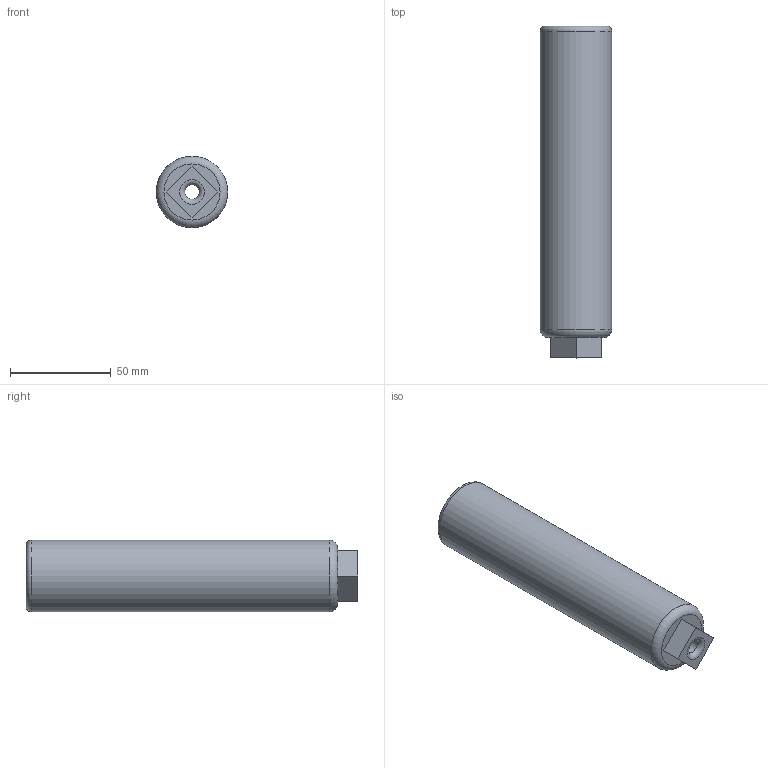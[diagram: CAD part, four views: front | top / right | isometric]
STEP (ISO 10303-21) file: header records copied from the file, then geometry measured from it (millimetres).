
FILE_DESCRIPTION(/* description */ (''),/* implementation_level */ '2;1');
FILE_NAME(/* name */ 'C:/Users/Owner/Desktop/liberator suppressed/STEP Files/22 Caliber versions/22 Cal Liberator Suppressor can 6.5 inch.step',/* time_stamp */ '2020-04-23T22:18:11-04:00',/* author */ (''),/* organization */ (''),/* preprocessor_version */ 'ST-DEVELOPER v18.1',/* originating_system */ 'Autodesk Translation Framework v9.2.0.1227',/* authorisation */ '');
FILE_SCHEMA (('AUTOMOTIVE_DESIGN { 1 0 10303 214 3 1 1 }'));
Length unit declared in the file: inch
Products named in the file (1): 22 cal lib sup 6.5 inch
Bounding box: 35.56 x 165.1 x 35.56 mm (x, y, z)
Volume: 100001.6 mm3; surface area: 32303.7 mm2
Topology: 1 solids, 1 shells, 49 faces, 133 edges, 88 vertices
Faces by surface type: cylinder 33, plane 9, torus 5, bspline 2
Full cylindrical faces by diameter (mm): 7.112 x1, 22.288 x15, 25.4 x13, 35.56 x1
Entity records: 4489 total; most frequent: CARTESIAN_POINT 3304, ORIENTED_EDGE 266, DIRECTION 200, EDGE_CURVE 133, VERTEX_POINT 88, AXIS2_PLACEMENT_3D 78, B_SPLINE_CURVE_WITH_KNOTS 59, EDGE_LOOP 53
